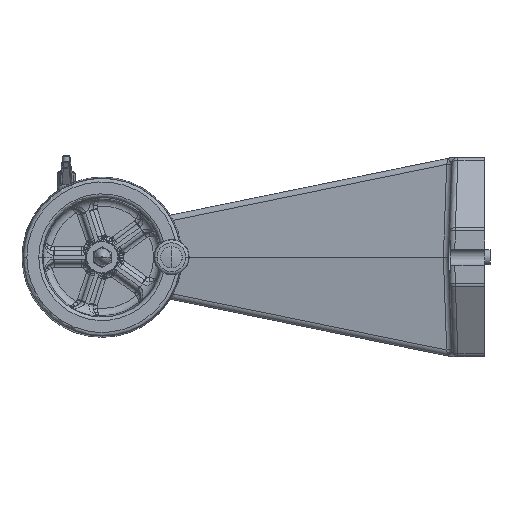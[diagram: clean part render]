
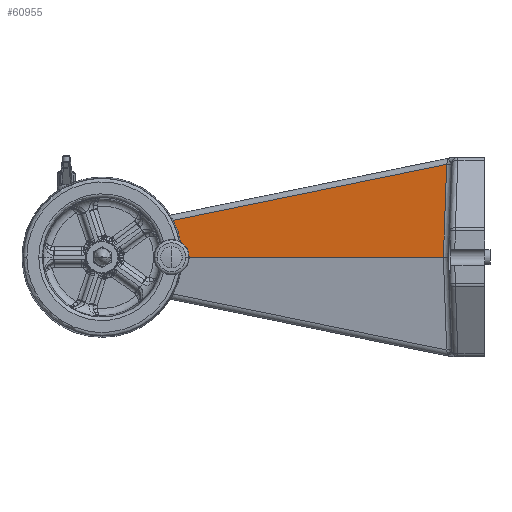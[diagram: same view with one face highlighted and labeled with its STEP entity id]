
A CAD part, left-side view. The second image highlights one B-rep face of the part: STEP entity #60955.
In plain terms, the highlighted planar face has unit normal (-0.989, 0.141, 0.035).
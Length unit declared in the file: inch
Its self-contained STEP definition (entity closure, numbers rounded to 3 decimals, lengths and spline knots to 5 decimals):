
#2557 = CARTESIAN_POINT ( 'NONE',  ( -7.2016, 0.13811, 1.50872 ) ) ;
#3519 = LINE ( 'NONE', #2557, #61231 ) ;
#6766 = VERTEX_POINT ( 'NONE', #39428 ) ;
#6978 = CARTESIAN_POINT ( 'NONE',  ( -6.85115, 1.99733, 3.93326 ) ) ;
#8191 = DIRECTION ( 'NONE',  ( -0.141, -0.99, 0. ) ) ;
#8875 = VECTOR ( 'NONE', #32946, 39.37008 ) ;
#9406 = ORIENTED_EDGE ( 'NONE', *, *, #31321, .T. ) ;
#14140 = DIRECTION ( 'NONE',  ( 0.141, 0.99, 0. ) ) ;
#15529 = EDGE_CURVE ( 'Defeatured_0_210+Defeatured_0_209+Defeatured_0_281+Defeatured_0_378', #6766, #49260, #64144, .T. ) ;
#18639 = ORIENTED_EDGE ( 'NONE', *, *, #15529, .F. ) ;
#19534 = DIRECTION ( 'NONE',  ( -0.038, -0.019, -0.999 ) ) ;
#24244 = VECTOR ( 'NONE', #46137, 39.37008 ) ;
#24278 = EDGE_LOOP ( 'NONE', ( #9406, #25503, #18639, #31021, #63729 ) ) ;
#24464 = LINE ( 'NONE', #64597, #27653 ) ;
#24992 = EDGE_CURVE ( 'Defeatured_0_209+Defeatured_0_263+Defeatured_0_280+Defeatured_0_264', #41026, #47709, #57977, .T. ) ;
#25503 = ORIENTED_EDGE ( 'NONE', *, *, #56156, .T. ) ;
#27086 = AXIS2_PLACEMENT_3D ( 'NONE', #36357, #31432, #8191 ) ;
#27653 = VECTOR ( 'NONE', #19534, 39.37008 ) ;
#31021 = ORIENTED_EDGE ( 'NONE', *, *, #36722, .T. ) ;
#31321 = EDGE_CURVE ( 'Defeatured_0_209+Defeatured_0_264+Defeatured_0_263+Defeatured_0_379', #47709, #51471, #3519, .T. ) ;
#31432 = DIRECTION ( 'NONE',  ( -0.989, 0.141, 0.035 ) ) ;
#32946 = DIRECTION ( 'NONE',  ( 0.131, 0.971, -0.199 ) ) ;
#35959 = CARTESIAN_POINT ( 'NONE',  ( -5.28206, 13.60943, 1.50872 ) ) ;
#36357 = CARTESIAN_POINT ( 'NONE',  ( -7.25376, 0.14554, 0. ) ) ;
#36722 = EDGE_CURVE ( 'Defeatured_0_209+Defeatured_0_280+Defeatured_0_210+Defeatured_0_263', #6766, #41026, #57065, .T. ) ;
#37371 = CARTESIAN_POINT ( 'NONE',  ( -6.85269, 1.9991, 3.88251 ) ) ;
#39134 = CARTESIAN_POINT ( 'NONE',  ( -7.25376, 0.14554, 0. ) ) ;
#39428 = CARTESIAN_POINT ( 'NONE',  ( -6.97032, 2.13468, 0. ) ) ;
#41026 = VERTEX_POINT ( 'NONE', #37371 ) ;
#42739 = CARTESIAN_POINT ( 'NONE',  ( -6.99485, 0.94824, 4.09737 ) ) ;
#43343 = CARTESIAN_POINT ( 'NONE',  ( -5.24159, 13.89344, 1.50872 ) ) ;
#46137 = DIRECTION ( 'NONE',  ( 0.03, -0.035, 0.999 ) ) ;
#47305 = DIRECTION ( 'NONE',  ( 0.141, 0.99, 0. ) ) ;
#47709 = VERTEX_POINT ( 'NONE', #35959 ) ;
#49260 = VERTEX_POINT ( 'NONE', #64116 ) ;
#49545 = VECTOR ( 'NONE', #14140, 39.37008 ) ;
#51471 = VERTEX_POINT ( 'NONE', #43343 ) ;
#51829 = PLANE ( 'NONE',  #27086 ) ;
#56156 = EDGE_CURVE ( 'Defeatured_0_209+Defeatured_0_379+Defeatured_0_264+Defeatured_0_210', #51471, #49260, #24464, .T. ) ;
#57065 = LINE ( 'NONE', #6978, #24244 ) ;
#57977 = LINE ( 'NONE', #42739, #8875 ) ;
#60955 = ADVANCED_FACE ( 'Defeatured_0_209', ( #61381 ), #51829, .T. ) ;
#61231 = VECTOR ( 'NONE', #47305, 39.37008 ) ;
#61381 = FACE_OUTER_BOUND ( 'NONE', #24278, .T. ) ;
#63729 = ORIENTED_EDGE ( 'NONE', *, *, #24992, .T. ) ;
#64116 = CARTESIAN_POINT ( 'NONE',  ( -5.29882, 13.86528, 0. ) ) ;
#64144 = LINE ( 'NONE', #39134, #49545 ) ;
#64597 = CARTESIAN_POINT ( 'NONE',  ( -5.29867, 13.86536, 0.00405 ) ) ;
